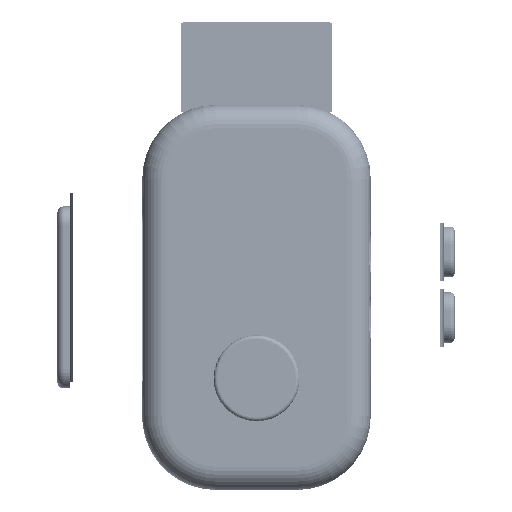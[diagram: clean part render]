
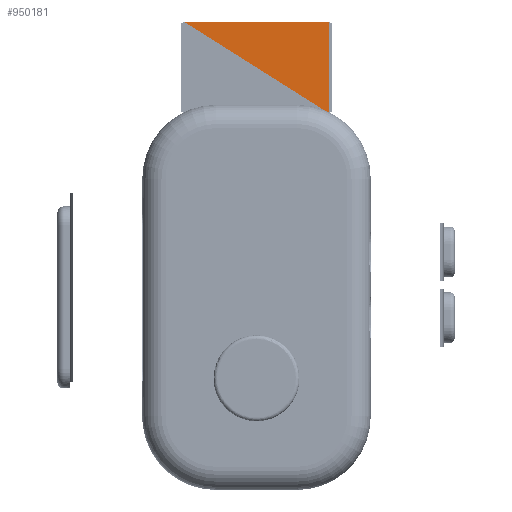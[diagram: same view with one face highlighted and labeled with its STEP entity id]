
A CAD part, front view. The second image highlights one B-rep face of the part: STEP entity #950181.
In plain terms, the highlighted planar face has unit normal (0, -1, 0) as drawn and (0, 0, -1) by its records, which use the part's own axes.
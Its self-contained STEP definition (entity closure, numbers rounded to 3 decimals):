
#946643 = VERTEX_POINT('',#946644);
#946644 = CARTESIAN_POINT('',(-28.5,-18.,0.));
#948195 = VERTEX_POINT('',#948196);
#948196 = CARTESIAN_POINT('',(28.5,18.,0.));
#949659 = VERTEX_POINT('',#949660);
#949660 = CARTESIAN_POINT('',(28.5,-18.,0.));
#950088 = PLANE('',#950089);
#950089 = AXIS2_PLACEMENT_3D('',#950090,#950091,#950092);
#950090 = CARTESIAN_POINT('',(28.878,-0.147,0.));
#950091 = DIRECTION('',(-0.,-0.,-1.));
#950092 = DIRECTION('',(-1.,0.,0.));
#950156 = EDGE_CURVE('',#948195,#949659,#950157,.T.);
#950157 = SURFACE_CURVE('',#950158,(#950162,#950169),.PCURVE_S1.);
#950158 = LINE('',#950159,#950160);
#950159 = CARTESIAN_POINT('',(28.5,18.,0.));
#950160 = VECTOR('',#950161,1.);
#950161 = DIRECTION('',(0.,-1.,0.));
#950162 = PCURVE('',#950088,#950163);
#950163 = DEFINITIONAL_REPRESENTATION('',(#950164),#950168);
#950164 = LINE('',#950165,#950166);
#950165 = CARTESIAN_POINT('',(0.378,18.147));
#950166 = VECTOR('',#950167,1.);
#950167 = DIRECTION('',(0.,-1.));
#950168 = ( GEOMETRIC_REPRESENTATION_CONTEXT(2) 
PARAMETRIC_REPRESENTATION_CONTEXT() REPRESENTATION_CONTEXT('2D SPACE',''
  ) );
#950169 = PCURVE('',#950170,#950175);
#950170 = PLANE('',#950171);
#950171 = AXIS2_PLACEMENT_3D('',#950172,#950173,#950174);
#950172 = CARTESIAN_POINT('',(6.396,-6.396,0.));
#950173 = DIRECTION('',(-0.,-0.,-1.));
#950174 = DIRECTION('',(-1.,0.,0.));
#950175 = DEFINITIONAL_REPRESENTATION('',(#950176),#950180);
#950176 = LINE('',#950177,#950178);
#950177 = CARTESIAN_POINT('',(-22.104,24.396));
#950178 = VECTOR('',#950179,1.);
#950179 = DIRECTION('',(0.,-1.));
#950180 = ( GEOMETRIC_REPRESENTATION_CONTEXT(2) 
PARAMETRIC_REPRESENTATION_CONTEXT() REPRESENTATION_CONTEXT('2D SPACE',''
  ) );
#950181 = ADVANCED_FACE('',(#950182),#950170,.T.);
#950182 = FACE_BOUND('',#950183,.T.);
#950183 = EDGE_LOOP('',(#950184,#950185,#950211));
#950184 = ORIENTED_EDGE('',*,*,#950156,.T.);
#950185 = ORIENTED_EDGE('',*,*,#950186,.T.);
#950186 = EDGE_CURVE('',#949659,#946643,#950187,.T.);
#950187 = SURFACE_CURVE('',#950188,(#950192,#950199),.PCURVE_S1.);
#950188 = LINE('',#950189,#950190);
#950189 = CARTESIAN_POINT('',(28.5,-18.,0.));
#950190 = VECTOR('',#950191,1.);
#950191 = DIRECTION('',(-1.,0.,0.));
#950192 = PCURVE('',#950170,#950193);
#950193 = DEFINITIONAL_REPRESENTATION('',(#950194),#950198);
#950194 = LINE('',#950195,#950196);
#950195 = CARTESIAN_POINT('',(-22.104,-11.604));
#950196 = VECTOR('',#950197,1.);
#950197 = DIRECTION('',(1.,0.));
#950198 = ( GEOMETRIC_REPRESENTATION_CONTEXT(2) 
PARAMETRIC_REPRESENTATION_CONTEXT() REPRESENTATION_CONTEXT('2D SPACE',''
  ) );
#950199 = PCURVE('',#950200,#950205);
#950200 = PLANE('',#950201);
#950201 = AXIS2_PLACEMENT_3D('',#950202,#950203,#950204);
#950202 = CARTESIAN_POINT('',(1.643,-18.,1.857));
#950203 = DIRECTION('',(-0.,-1.,-0.));
#950204 = DIRECTION('',(0.,0.,-1.));
#950205 = DEFINITIONAL_REPRESENTATION('',(#950206),#950210);
#950206 = LINE('',#950207,#950208);
#950207 = CARTESIAN_POINT('',(1.857,26.857));
#950208 = VECTOR('',#950209,1.);
#950209 = DIRECTION('',(0.,-1.));
#950210 = ( GEOMETRIC_REPRESENTATION_CONTEXT(2) 
PARAMETRIC_REPRESENTATION_CONTEXT() REPRESENTATION_CONTEXT('2D SPACE',''
  ) );
#950211 = ORIENTED_EDGE('',*,*,#950212,.T.);
#950212 = EDGE_CURVE('',#946643,#948195,#950213,.T.);
#950213 = SURFACE_CURVE('',#950214,(#950218,#950225),.PCURVE_S1.);
#950214 = LINE('',#950215,#950216);
#950215 = CARTESIAN_POINT('',(-28.5,-18.,0.));
#950216 = VECTOR('',#950217,1.);
#950217 = DIRECTION('',(0.845,0.534,0.));
#950218 = PCURVE('',#950170,#950219);
#950219 = DEFINITIONAL_REPRESENTATION('',(#950220),#950224);
#950220 = LINE('',#950221,#950222);
#950221 = CARTESIAN_POINT('',(34.896,-11.604));
#950222 = VECTOR('',#950223,1.);
#950223 = DIRECTION('',(-0.845,0.534));
#950224 = ( GEOMETRIC_REPRESENTATION_CONTEXT(2) 
PARAMETRIC_REPRESENTATION_CONTEXT() REPRESENTATION_CONTEXT('2D SPACE',''
  ) );
#950225 = PCURVE('',#950226,#950231);
#950226 = PLANE('',#950227);
#950227 = AXIS2_PLACEMENT_3D('',#950228,#950229,#950230);
#950228 = CARTESIAN_POINT('',(-6.396,6.396,0.));
#950229 = DIRECTION('',(-0.,-0.,-1.));
#950230 = DIRECTION('',(-1.,0.,0.));
#950231 = DEFINITIONAL_REPRESENTATION('',(#950232),#950236);
#950232 = LINE('',#950233,#950234);
#950233 = CARTESIAN_POINT('',(22.104,-24.396));
#950234 = VECTOR('',#950235,1.);
#950235 = DIRECTION('',(-0.845,0.534));
#950236 = ( GEOMETRIC_REPRESENTATION_CONTEXT(2) 
PARAMETRIC_REPRESENTATION_CONTEXT() REPRESENTATION_CONTEXT('2D SPACE',''
  ) );
